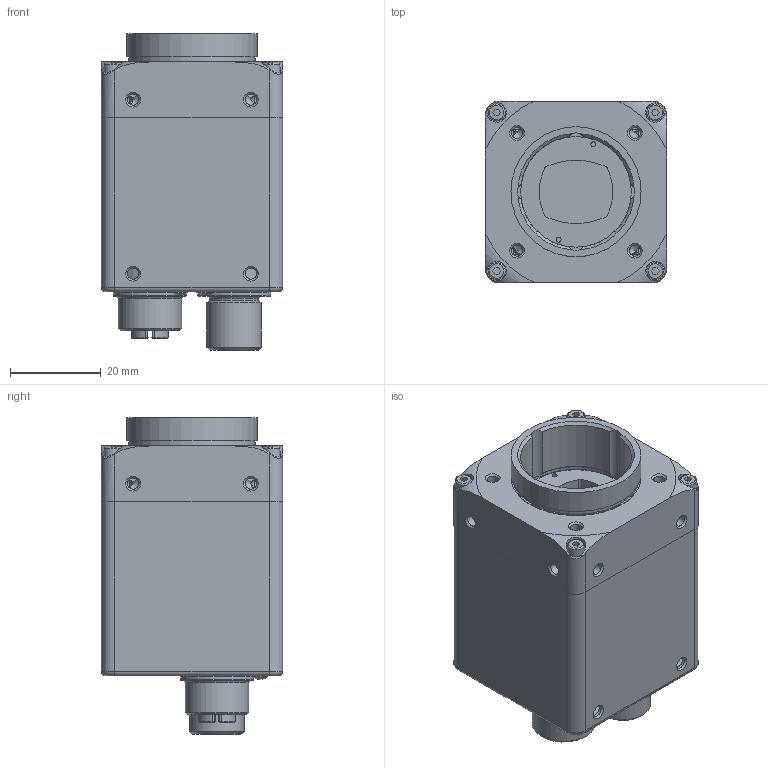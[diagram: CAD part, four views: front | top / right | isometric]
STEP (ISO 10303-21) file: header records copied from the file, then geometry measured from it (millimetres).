
FILE_DESCRIPTION(/* description */ ('Unknown'),/* implementation_level */ '2;1');
FILE_NAME(/* name */ '11702883_VCXG-201M.R.I',/* time_stamp */ '2021-03-25T14:01:03+01:00',/* author */ ('Unknown'),/* organization */ ('Baumer'),/* preprocessor_version */ 'ST-DEVELOPER v16.7',/* originating_system */ 'Solid Edge',/* authorisation */ 'Unknown');
FILE_SCHEMA (('AUTOMOTIVE_DESIGN {1 0 10303 214 3 1 1}'));
Length unit declared in the file: millimetre
Products named in the file (1): 11702883_VCXG-201M.R.I
Bounding box: 40 x 40 x 69.9 mm (x, y, z)
Volume: 25964.8 mm3; surface area: 30359.8 mm2
Topology: 3 solids, 4 shells, 1522 faces, 3897 edges, 2595 vertices
Faces by surface type: plane 707, cylinder 581, torus 92, cone 67, bspline 39, sphere 36
Full cylindrical faces by diameter (mm): 0.217 x2, 0.6 x12, 0.63 x12, 0.7 x8, 0.75 x1, 0.8 x8, 0.85 x1, 0.9 x118, 1 x3, 1.1 x14, 1.24 x8, 2 x6, 2.4 x4, 2.459 x26, 2.8 x2, 3.4 x2, 3.8 x4, 8 x2, 8.25 x1, 8.3 x1, 8.4 x1, 8.9 x1, 9 x1, 9.3 x2, 9.4 x2, 10 x1, 10.2 x1, 10.75 x1, 11 x1, 12 x3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
Entity records: 56041 total; most frequent: CARTESIAN_POINT 11190, DIRECTION 7174, ORIENTED_EDGE 6434, EDGE_CURVE 3217, AXIS2_PLACEMENT_3D 2814, VERTEX_POINT 2317, FACE_BOUND 2186, EDGE_LOOP 2182
